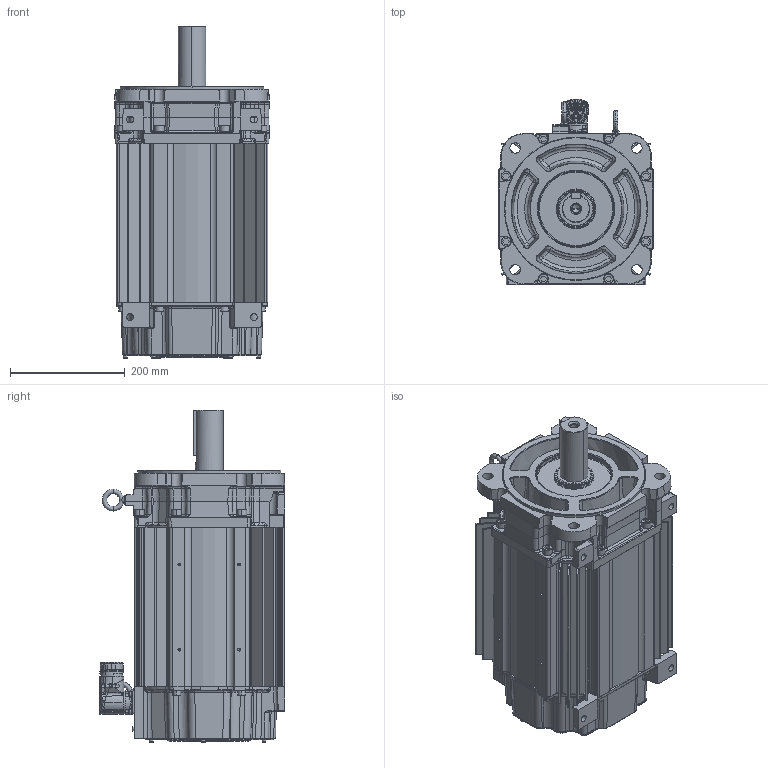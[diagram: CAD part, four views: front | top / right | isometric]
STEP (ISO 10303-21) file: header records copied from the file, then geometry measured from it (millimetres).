
FILE_DESCRIPTION((''),'2;1');
FILE_NAME('10005239751_ASM','2020-01-16T10:02:05',('VThimma'),('Rockwell Automation'),'CREO PARAMETRIC BY PTC INC, 2017380','CREO PARAMETRIC BY PTC INC, 2017380','');
FILE_SCHEMA(('CONFIG_CONTROL_DESIGN','SHAPE_APPEARANCE_LAYERS_GROUPS'));
Products named in the file (21): 10001441946; 10001404634_AF0; 10001404629_AF6; 10001404635_ASM; 10001585735; 10001441999_ASM; 10001439776; 10001566079_ASM; 10001405269_AF27; 10001405369_ASM; 10001586887; 0002-5004; 10001609981; 10001737030; 10000801000; 10000801001; 10000801002_ASM; 221404-Q12; 10001408124; 0011-2084; 10005239751_ASM
Assembly tree (43 placements, depth 4):
  10005239751_ASM
    10001441999_ASM
      10001441946
      10001404635_ASM
        10001404634_AF0
        10001404629_AF6
      10001585735  x8
    10001566079_ASM
      10001439776
    10001405369_ASM
      10001405269_AF27
    10001586887  x7
    0002-5004  x2
    10001609981
    10001737030
    10000801002_ASM
      10000801000
      10000801001
    221404-Q12  x10
    10001408124
    0011-2084
Bounding box: 269.49 x 324.1 x 578.83 mm (x, y, z)
Surface area: 1882181.5 mm2 (no closed solid volume)
Topology: 0 solids, 41 shells, 4485 faces, 11171 edges, 6827 vertices
Faces by surface type: cylinder 1433, plane 1237, bspline 755, torus 547, cone 442, sphere 64, extrusion 7
Entity records: 185226 total; most frequent: CARTESIAN_POINT 54052, ORIENTED_EDGE 17404, DIRECTION 16316, PRESENTATION_STYLE_ASSIGNMENT 12165, STYLED_ITEM 12165, CURVE_STYLE 8713, EDGE_CURVE 8706, AXIS2_PLACEMENT_3D 6399
